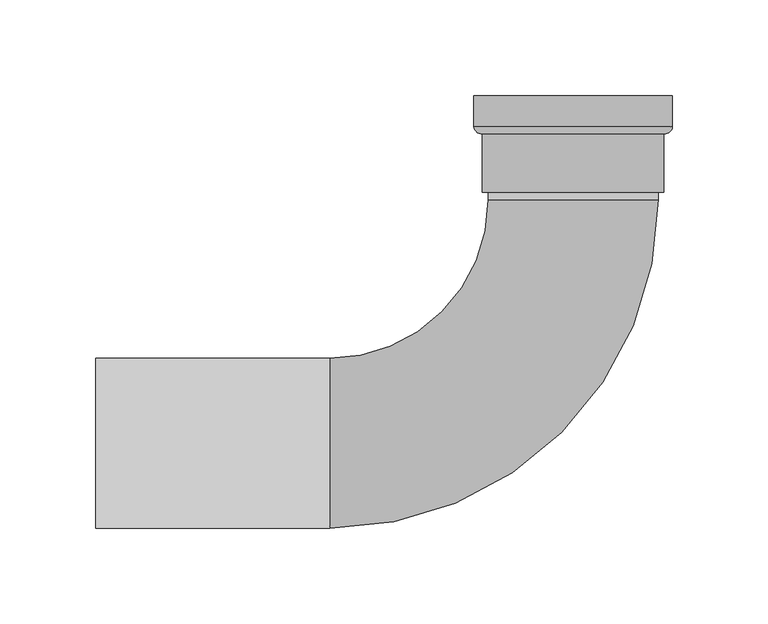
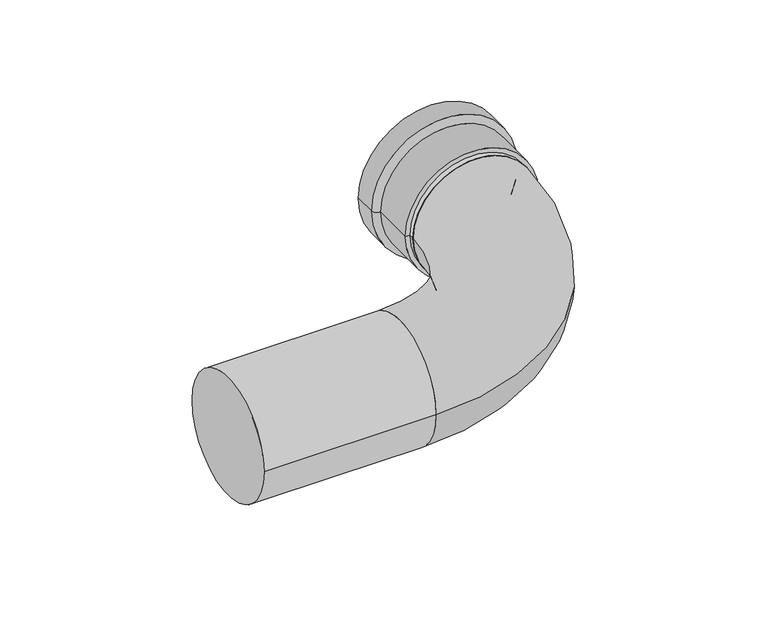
"""IFC4 building model written with IfcOpenShell, lengths in millimetres: pipe fitting geometry, VALTEC_VTi.950.I_Угольник 90° (раструб–труба) нержавеющая сталь : VTi.950.I."""

from ifc_helpers import new_model, si_unit, point, frame, origin, origin_2d, place, context, project, spatial, polyline, circle_curve, ellipse_curve, trimmed, segment, composite_curve, outline, extrude, source, transform, mapped, element, save
from ifc_brep_helpers import plane_surface, cylinder_surface, revolved_surface, advanced_brep


def pipe_fitting_b3192380(model_context):
    return source(origin(), model_context, "Body", "SolidModel", [
        advanced_brep(
        [(-44.45, 182.0, 0.0), (44.45, 182.0, 0.0), (52.0, 182.0, 0.0), (-52.0, 182.0, 0.0), (-44.45, 131.5, 0.0), (44.45, 131.5, 0.0), (-47.5, 131.5, 0.0), (47.5, 131.5, 0.0), (-47.5, 161.89, 0.0), (47.5, 161.89, 0.0), (-52.0, 165.6, 0.0), (52.0, 165.6, 0.0)],
        [
            (0, 1, circle_curve(frame((0.0, 182.0, 0.0), z_axis=(0.0, -1.0, 0.0), x_axis=(1.0, 0.0, 0.0)), 44.45)),
            (1, 2),
            (2, 3, circle_curve(frame((0.0, 182.0, 0.0), z_axis=(0.0, 1.0, 0.0), x_axis=(1.0, 0.0, 0.0)), 52.0)),
            (3, 0),
            (1, 0, circle_curve(frame((0.0, 182.0, 0.0), z_axis=(0.0, -1.0, 0.0), x_axis=(1.0, 0.0, 0.0)), 44.45)),
            (3, 2, circle_curve(frame((0.0, 182.0, 0.0), z_axis=(0.0, 1.0, 0.0), x_axis=(1.0, 0.0, 0.0)), 52.0)),
            (4, 5, circle_curve(frame((0.0, 131.5, 0.0), z_axis=(0.0, -1.0, 0.0), x_axis=(1.0, 0.0, 0.0)), 44.45)),
            (5, 1),
            (0, 4),
            (5, 4, circle_curve(frame((0.0, 131.5, 0.0), z_axis=(0.0, -1.0, 0.0), x_axis=(1.0, 0.0, 0.0)), 44.45)),
            (6, 7, circle_curve(frame((0.0, 131.5, 0.0), z_axis=(0.0, -1.0, 0.0), x_axis=(1.0, 0.0, 0.0)), 47.5)),
            (7, 5),
            (4, 6),
            (7, 6, circle_curve(frame((0.0, 131.5, 0.0), z_axis=(0.0, -1.0, 0.0), x_axis=(1.0, 0.0, 0.0)), 47.5)),
            (8, 9, circle_curve(frame((0.0, 161.89, 0.0), z_axis=(0.0, -1.0, 0.0), x_axis=(1.0, 0.0, 0.0)), 47.5)),
            (9, 7),
            (6, 8),
            (9, 8, circle_curve(frame((0.0, 161.89, 0.0), z_axis=(0.0, -1.0, 0.0), x_axis=(1.0, 0.0, 0.0)), 47.5)),
            (10, 11, circle_curve(frame((0.0, 165.6, 0.0), z_axis=(0.0, -1.0, 0.0), x_axis=(1.0, 0.0, 0.0)), 52.0)),
            (11, 9, circle_curve(frame((47.612345, 166.337843, 0.0), z_axis=(0.0, 0.0, -1.0), x_axis=(0.0, -1.0, 0.0)), 4.4492616)),
            (8, 10, circle_curve(frame((-47.612345, 166.337843, 0.0), z_axis=(0.0, 0.0, -1.0), x_axis=(0.0, -1.0, 0.0)), 4.4492616)),
            (11, 10, circle_curve(frame((0.0, 165.6, 0.0), z_axis=(0.0, -1.0, 0.0), x_axis=(1.0, 0.0, 0.0)), 52.0)),
            (2, 11),
            (10, 3),
        ],
        [
            plane_surface(frame((0.0, 182.0, 0.0), z_axis=(0.0, 1.0, 0.0), x_axis=(1.0, 0.0, 0.0))),
            revolved_surface(polyline([(44.45, 182.0, 0.0), (44.45, 131.5, 0.0)]), (0.0, 152.2906392, 0.0), (0.0, 1.0, 0.0)),
            plane_surface(frame((0.0, 131.5, 0.0), z_axis=(0.0, -1.0, 0.0), x_axis=(1.0, 0.0, 0.0))),
            cylinder_surface(frame((0.0, 152.2906392, 0.0), z_axis=(0.0, 1.0, 0.0), x_axis=(1.0, 0.0, 0.0)), 47.5),
            revolved_surface(trimmed(ellipse_curve(frame((47.612345, 166.337843, 0.0), z_axis=(0.0, 0.0, 1.0), x_axis=(0.0, -1.0, 0.0)), 4.4492616, 4.4492616), [point((47.5, 161.89, 0.0))], [point((52.0, 165.6, 0.0))], True, "CARTESIAN"), (0.0, 152.2906392, 0.0), (0.0, 1.0, 0.0)),
            cylinder_surface(frame((0.0, 152.2906392, 0.0), z_axis=(0.0, 1.0, 0.0), x_axis=(1.0, 0.0, 0.0)), 52.0),
        ],
        [
            (0, [[1, 2, 3, 4]]),
            (0, [[5, -4, 6, -2]]),
            (1, [[7, 8, -1, 9]]),
            (1, [[10, -9, -5, -8]]),
            (2, [[11, 12, -7, 13]]),
            (2, [[14, -13, -10, -12]]),
            (3, [[15, 16, -11, 17]]),
            (3, [[18, -17, -14, -16]]),
            (4, [[19, 20, -15, 21]]),
            (4, [[22, -21, -18, -20]]),
            (5, [[-3, 23, -19, 24]]),
            (5, [[-6, -24, -22, -23]]),
        ],
    ),
        extrude(outline(composite_curve([segment(trimmed(circle_curve(origin_2d(), 44.45), [point((0.0, -44.45))], [point((0.0, 44.45))], False, "CARTESIAN"), True, "CONTINUOUS"), segment(trimmed(circle_curve(origin_2d(), 44.45), [point((0.0, 44.45))], [point((0.0, -44.45))], False, "CARTESIAN"), True, "CONTINUOUS")], self_intersect=False)), frame((0.0, 127.4, 0.0), z_axis=(0.0, 1.0, 0.0), x_axis=(0.0, 0.0, 1.0)), (0.0, 0.0, 1.0), 54.6),
        extrude(outline(composite_curve([segment(trimmed(circle_curve(origin_2d(), 44.45), [point((-44.45, 0.0))], [point((44.45, 0.0))], False, "CARTESIAN"), True, "CONTINUOUS"), segment(trimmed(circle_curve(origin_2d(), 44.45), [point((44.45, 0.0))], [point((-44.45, 0.0))], False, "CARTESIAN"), True, "CONTINUOUS")], self_intersect=False)), frame((-250.0, 0.0, 0.0), z_axis=(1.0, 0.0, 0.0), x_axis=(0.0, 1.0, 0.0)), (0.0, 0.0, 1.0), 122.6),
        advanced_brep(
        [(-127.4, -44.5051605, 0.0), (-127.4, 44.3948395, 0.0), (44.5051605, 127.4, 0.0), (-44.3948395, 127.4, 0.0)],
        [
            (0, 1, circle_curve(frame((-127.4, -0.0551605, 0.0), z_axis=(-1.0, 0.0, 0.0), x_axis=(0.0, 1.0, 0.0)), 44.45)),
            (1, 0, circle_curve(frame((-127.4, -0.0551605, 0.0), z_axis=(-1.0, 0.0, 0.0), x_axis=(0.0, 1.0, 0.0)), 44.45)),
            (2, 3, circle_curve(frame((0.0551605, 127.4, 0.0), z_axis=(0.0, 1.0, 0.0), x_axis=(-1.0, 0.0, 0.0)), 44.45)),
            (3, 2, circle_curve(frame((0.0551605, 127.4, 0.0), z_axis=(0.0, 1.0, 0.0), x_axis=(-1.0, 0.0, 0.0)), 44.45)),
            (3, 1, circle_curve(frame((-127.4, 127.4, 0.0), z_axis=(0.0, 0.0, -1.0), x_axis=(0.0, -1.0, 0.0)), 83.0051605)),
            (0, 2, circle_curve(frame((-127.4, 127.4, 0.0), z_axis=(0.0, 0.0, 1.0), x_axis=(0.0, -1.0, 0.0)), 171.9051605)),
        ],
        [
            plane_surface(frame((-127.4, 0.0, 0.0), z_axis=(-1.0, 0.0, 0.0), x_axis=(0.0, 0.0, 1.0))),
            plane_surface(frame((0.0, 127.4, 0.0), z_axis=(0.0, 1.0, 0.0), x_axis=(0.0, 0.0, 1.0))),
            revolved_surface(trimmed(ellipse_curve(frame((-127.4, -0.0551605, 0.0), z_axis=(-1.0, 0.0, 0.0), x_axis=(0.0, 1.0, 0.0)), 44.45, 44.45), [point((-127.4, -44.5051605, 0.0))], [point((-127.4, 44.3948395, 0.0))], True, "CARTESIAN"), (-127.4, 127.4, 0.0), (0.0, 0.0, 1.0)),
            revolved_surface(trimmed(ellipse_curve(frame((-127.4, -0.0551605, 0.0), z_axis=(-1.0, 0.0, 0.0), x_axis=(0.0, 1.0, 0.0)), 44.45, 44.45), [point((-127.4, 44.3948395, 0.0))], [point((-127.4, -44.5051605, 0.0))], True, "CARTESIAN"), (-127.4, 127.4, 0.0), (0.0, 0.0, 1.0)),
        ],
        [
            (0, [[1, 2]]),
            (1, [[3, 4]]),
            (2, [[5, -1, 6, -4]]),
            (3, [[-6, -2, -5, -3]]),
        ],
    ),
    ])


if __name__ == "__main__":
    model = new_model("IFC4")
    model_context = context("Model", 3, world=origin())
    ifc_project = project(units=[si_unit("LENGTHUNIT", "METRE", prefix="MILLI")], contexts=[model_context])
    site = spatial("IfcSite", under=ifc_project)
    building = spatial("IfcBuilding", under=site)
    placement = place(None, origin())
    pipe_fitting_shape = pipe_fitting_b3192380(model_context)
    element("IfcPipeFitting", 1, ObjectType="VALTEC_VTi.950.I_Угольник 90° (раструб–труба) нержавеющая сталь : VTi.950.I", at=placement, inside=building, context=model_context, shape_type="MappedRepresentation", body=[
        mapped(pipe_fitting_shape, transform((0.0, 0.0, 0.0), x_axis=(1.0, 0.0, 0.0), y_axis=(0.0, 1.0, 0.0), z_axis=(0.0, 0.0, 1.0))),
    ])
    save(model, "model.ifc")
